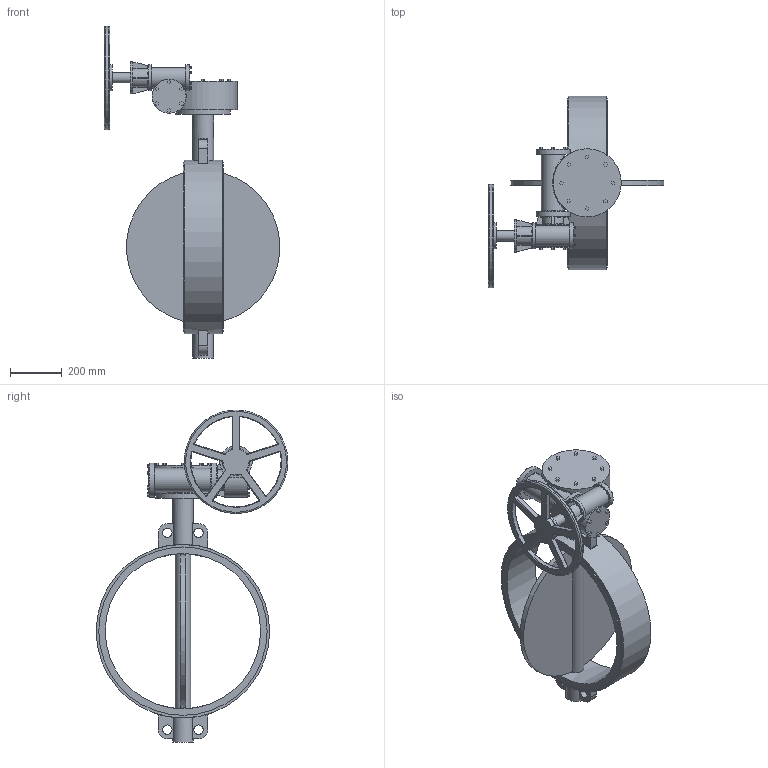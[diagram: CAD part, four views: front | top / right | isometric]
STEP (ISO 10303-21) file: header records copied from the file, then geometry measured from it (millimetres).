
FILE_DESCRIPTION(('STEP AP203'), '1');
FILE_NAME('青蜮铕 017W.YS_DN600_PN16_疱潴牝铕', '', ('UNSPECIFIED'), ('UNSPECIFIED'), 'ASCON STEP Converter 1.6', 'ASCON Math Kernel', '');
FILE_SCHEMA(('CONFIG_CONTROL_DESIGN'));
Length unit declared in the file: millimetre
Bounding box: 676.64 x 740 x 1282 mm (x, y, z)
Volume: 30967643.9 mm3; surface area: 2103511.2 mm2
Topology: 1 solids, 1 shells, 596 faces, 1472 edges, 945 vertices
Faces by surface type: plane 403, cylinder 107, torus 76, cone 8, bspline 2
Full cylindrical faces by diameter (mm): 15.294 x4, 22 x4, 36 x4, 40 x1, 60 x1, 80 x3, 91 x1, 100 x3, 125 x1, 131 x3, 210 x1, 263 x1, 400 x1, 600 x1, 650 x2, 670 x1
Entity records: 24741 total; most frequent: CARTESIAN_POINT 5743, DIRECTION 2930, ORIENTED_EDGE 2842, EDGE_CURVE 1421, LINE 1014, VECTOR 1014, AXIS2_PLACEMENT_3D 958, VERTEX_POINT 941
